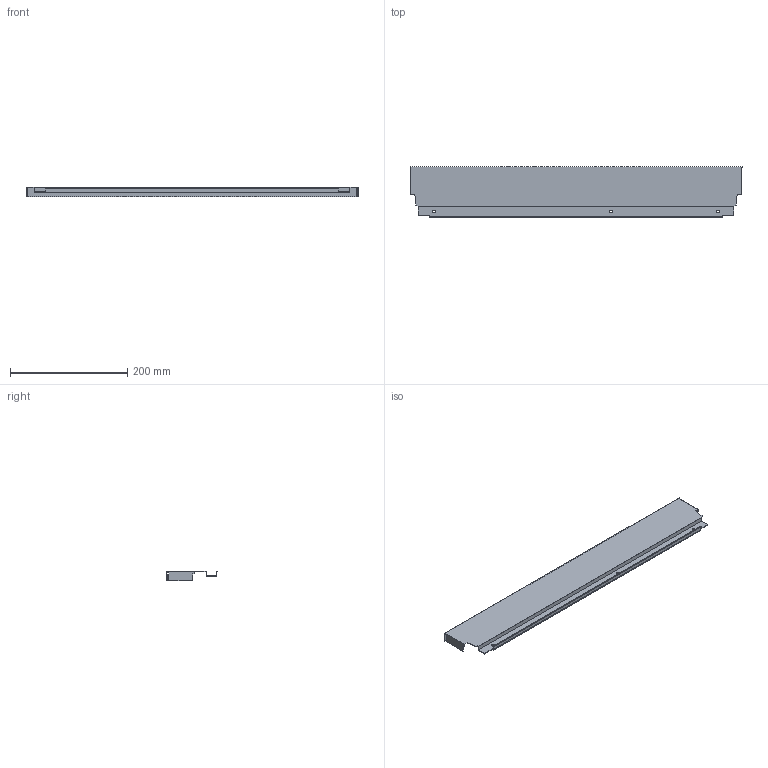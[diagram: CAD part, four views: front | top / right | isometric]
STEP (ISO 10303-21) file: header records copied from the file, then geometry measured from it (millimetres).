
FILE_DESCRIPTION (( 'STEP AP214' ), '1' );
FILE_NAME ('_DWD_XP Stahlrückwand_H86_KAB650_S17.step', '2010-07-08T12:10:10', ( 'grass' ), ( '' ), 'SwSTEP 2.0', 'SolidWorks 2010', '' );
FILE_SCHEMA (( 'AUTOMOTIVE_DESIGN' ));
Length unit declared in the file: millimetre
Products named in the file (1): _DWD_XP Stahlrückwand_H86_KAB650_S17
Bounding box: 567 x 85.79 x 16 mm (x, y, z)
Volume: 60446.2 mm3; surface area: 131652.9 mm2
Topology: 1 solids, 1 shells, 50 faces, 144 edges, 96 vertices
Faces by surface type: plane 44, cylinder 6
Entity records: 1666 total; most frequent: CARTESIAN_POINT 291, ORIENTED_EDGE 288, DIRECTION 258, EDGE_CURVE 144, LINE 132, VECTOR 132, VERTEX_POINT 96, AXIS2_PLACEMENT_3D 63
